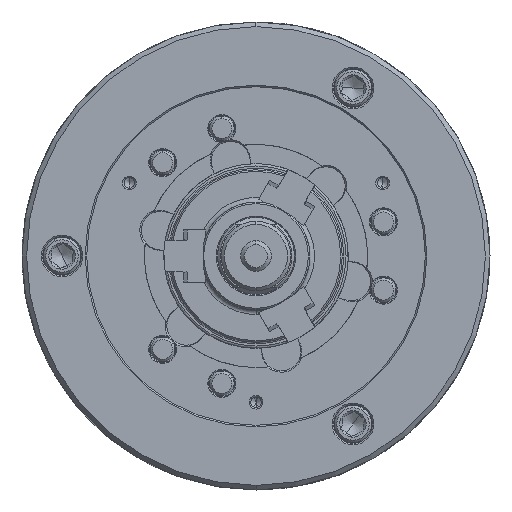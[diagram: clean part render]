
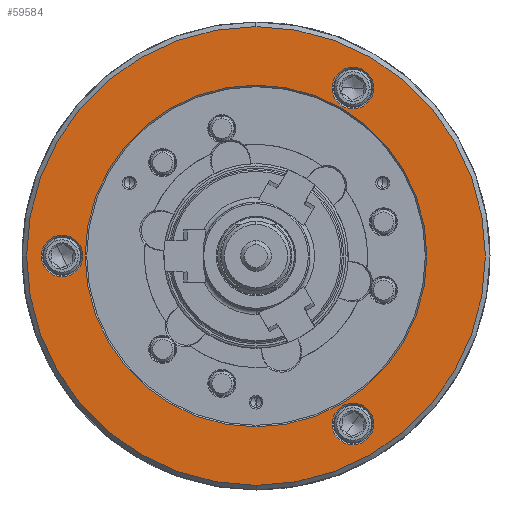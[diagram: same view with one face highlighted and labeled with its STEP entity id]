
A CAD part, left-side view. The second image highlights one B-rep face of the part: STEP entity #59584.
In plain terms, the highlighted planar face has unit normal (-1, 0, 0).
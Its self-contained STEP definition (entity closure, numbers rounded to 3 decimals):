
#859 = CARTESIAN_POINT ( 'NONE',  ( -106., -63., -95.619 ) ) ;
#1096 = FACE_BOUND ( 'NONE', #66993, .T. ) ;
#2465 = ORIENTED_EDGE ( 'NONE', *, *, #106544, .T. ) ;
#2637 = ORIENTED_EDGE ( 'NONE', *, *, #19438, .T. ) ;
#3357 = CARTESIAN_POINT ( 'NONE',  ( -106., 0., -111. ) ) ;
#3598 = VERTEX_POINT ( 'NONE', #81062 ) ;
#4525 = DIRECTION ( 'NONE',  ( 1., 0., 0. ) ) ;
#6349 = CIRCLE ( 'NONE', #74624, 13.5 ) ;
#6416 = ORIENTED_EDGE ( 'NONE', *, *, #31353, .F. ) ;
#6682 = CIRCLE ( 'NONE', #74953, 149. ) ;
#9047 = EDGE_LOOP ( 'NONE', ( #2637, #26412 ) ) ;
#9252 = CARTESIAN_POINT ( 'NONE',  ( -106., -63., 109.119 ) ) ;
#9295 = DIRECTION ( 'NONE',  ( 0., 0., -1. ) ) ;
#9530 = EDGE_CURVE ( 'NONE', #18376, #117053, #6682, .T. ) ;
#9852 = DIRECTION ( 'NONE',  ( 0., 0., -1. ) ) ;
#10398 = CIRCLE ( 'NONE', #59365, 111. ) ;
#12646 = FACE_BOUND ( 'NONE', #15241, .T. ) ;
#12737 = ORIENTED_EDGE ( 'NONE', *, *, #70303, .T. ) ;
#15241 = EDGE_LOOP ( 'NONE', ( #2465, #46863 ) ) ;
#16040 = CARTESIAN_POINT ( 'NONE',  ( -106., -63., -109.119 ) ) ;
#16658 = ORIENTED_EDGE ( 'NONE', *, *, #88995, .T. ) ;
#18376 = VERTEX_POINT ( 'NONE', #38354 ) ;
#18868 = CARTESIAN_POINT ( 'NONE',  ( -106., 0., 0. ) ) ;
#19017 = DIRECTION ( 'NONE',  ( 1., 0., 0. ) ) ;
#19438 = EDGE_CURVE ( 'NONE', #112745, #38171, #10398, .T. ) ;
#21090 = EDGE_CURVE ( 'NONE', #110123, #115815, #40815, .T. ) ;
#22855 = CARTESIAN_POINT ( 'NONE',  ( -106., 0., 0. ) ) ;
#26412 = ORIENTED_EDGE ( 'NONE', *, *, #72368, .T. ) ;
#29133 = VERTEX_POINT ( 'NONE', #105583 ) ;
#31353 = EDGE_CURVE ( 'NONE', #117053, #18376, #50854, .T. ) ;
#32812 = CIRCLE ( 'NONE', #62087, 13.5 ) ;
#33005 = DIRECTION ( 'NONE',  ( 1., 0., 0. ) ) ;
#33151 = CARTESIAN_POINT ( 'NONE',  ( -106., 0., 149. ) ) ;
#35339 = DIRECTION ( 'NONE',  ( 1., 0., 0. ) ) ;
#36159 = DIRECTION ( 'NONE',  ( 0., 0., -1. ) ) ;
#37526 = CIRCLE ( 'NONE', #90203, 13.5 ) ;
#38171 = VERTEX_POINT ( 'NONE', #3357 ) ;
#38354 = CARTESIAN_POINT ( 'NONE',  ( -106., 0., -149. ) ) ;
#39002 = VERTEX_POINT ( 'NONE', #89025 ) ;
#40545 = DIRECTION ( 'NONE',  ( 0., 0., -1. ) ) ;
#40815 = CIRCLE ( 'NONE', #109169, 13.5 ) ;
#43527 = DIRECTION ( 'NONE',  ( 1., 0., 0. ) ) ;
#44399 = ORIENTED_EDGE ( 'NONE', *, *, #21090, .T. ) ;
#46531 = CARTESIAN_POINT ( 'NONE',  ( -106., 0., 0. ) ) ;
#46833 = EDGE_LOOP ( 'NONE', ( #16658, #12737 ) ) ;
#46863 = ORIENTED_EDGE ( 'NONE', *, *, #55415, .T. ) ;
#48922 = AXIS2_PLACEMENT_3D ( 'NONE', #22855, #4525, #40545 ) ;
#49276 = FACE_BOUND ( 'NONE', #46833, .T. ) ;
#50854 = CIRCLE ( 'NONE', #48922, 149. ) ;
#55415 = EDGE_CURVE ( 'NONE', #29133, #3598, #6349, .T. ) ;
#56815 = AXIS2_PLACEMENT_3D ( 'NONE', #9252, #19017, #9852 ) ;
#58700 = AXIS2_PLACEMENT_3D ( 'NONE', #68028, #114555, #58900 ) ;
#58900 = DIRECTION ( 'NONE',  ( 0., 0., -1. ) ) ;
#59218 = CIRCLE ( 'NONE', #106102, 111. ) ;
#59365 = AXIS2_PLACEMENT_3D ( 'NONE', #18868, #74420, #120294 ) ;
#59584 = ADVANCED_FACE ( 'NONE', ( #12646, #1096, #49276, #67576, #86552 ), #66975, .F. ) ;
#61223 = DIRECTION ( 'NONE',  ( 1., 0., 0. ) ) ;
#62087 = AXIS2_PLACEMENT_3D ( 'NONE', #100958, #43527, #36159 ) ;
#66369 = DIRECTION ( 'NONE',  ( 1., 0., 0. ) ) ;
#66975 = PLANE ( 'NONE',  #96503 ) ;
#66993 = EDGE_LOOP ( 'NONE', ( #111729, #44399 ) ) ;
#67576 = FACE_OUTER_BOUND ( 'NONE', #80747, .T. ) ;
#68028 = CARTESIAN_POINT ( 'NONE',  ( -106., 126., 0. ) ) ;
#68392 = CARTESIAN_POINT ( 'NONE',  ( -106., 126., 0. ) ) ;
#70303 = EDGE_CURVE ( 'NONE', #39002, #96164, #37526, .T. ) ;
#72007 = CARTESIAN_POINT ( 'NONE',  ( -106., -63., 109.119 ) ) ;
#72337 = CIRCLE ( 'NONE', #56815, 13.5 ) ;
#72368 = EDGE_CURVE ( 'NONE', #38171, #112745, #59218, .T. ) ;
#74420 = DIRECTION ( 'NONE',  ( 1., 0., 0. ) ) ;
#74624 = AXIS2_PLACEMENT_3D ( 'NONE', #72007, #35339, #109324 ) ;
#74634 = DIRECTION ( 'NONE',  ( 1., 0., 0. ) ) ;
#74953 = AXIS2_PLACEMENT_3D ( 'NONE', #46531, #74634, #9295 ) ;
#76790 = DIRECTION ( 'NONE',  ( 0., 0., -1. ) ) ;
#80044 = DIRECTION ( 'NONE',  ( 0., 0., -1. ) ) ;
#80747 = EDGE_LOOP ( 'NONE', ( #86538, #6416 ) ) ;
#81062 = CARTESIAN_POINT ( 'NONE',  ( -106., -63., 122.619 ) ) ;
#86538 = ORIENTED_EDGE ( 'NONE', *, *, #9530, .F. ) ;
#86552 = FACE_BOUND ( 'NONE', #9047, .T. ) ;
#88995 = EDGE_CURVE ( 'NONE', #96164, #39002, #113433, .T. ) ;
#89025 = CARTESIAN_POINT ( 'NONE',  ( -106., 126., -13.5 ) ) ;
#90203 = AXIS2_PLACEMENT_3D ( 'NONE', #68392, #33005, #80044 ) ;
#93491 = DIRECTION ( 'NONE',  ( 1., 0., 0. ) ) ;
#95128 = CARTESIAN_POINT ( 'NONE',  ( -106., -111., 0. ) ) ;
#96164 = VERTEX_POINT ( 'NONE', #98158 ) ;
#96503 = AXIS2_PLACEMENT_3D ( 'NONE', #95128, #66369, #76790 ) ;
#98158 = CARTESIAN_POINT ( 'NONE',  ( -106., 126., 13.5 ) ) ;
#100958 = CARTESIAN_POINT ( 'NONE',  ( -106., -63., -109.119 ) ) ;
#105583 = CARTESIAN_POINT ( 'NONE',  ( -106., -63., 95.619 ) ) ;
#106057 = CARTESIAN_POINT ( 'NONE',  ( -106., -63., -122.619 ) ) ;
#106099 = CARTESIAN_POINT ( 'NONE',  ( -106., 0., 111. ) ) ;
#106102 = AXIS2_PLACEMENT_3D ( 'NONE', #112457, #93491, #110651 ) ;
#106544 = EDGE_CURVE ( 'NONE', #3598, #29133, #72337, .T. ) ;
#109169 = AXIS2_PLACEMENT_3D ( 'NONE', #16040, #61223, #116263 ) ;
#109324 = DIRECTION ( 'NONE',  ( 0., 0., -1. ) ) ;
#110123 = VERTEX_POINT ( 'NONE', #106057 ) ;
#110651 = DIRECTION ( 'NONE',  ( 0., 0., -1. ) ) ;
#111729 = ORIENTED_EDGE ( 'NONE', *, *, #117223, .T. ) ;
#112457 = CARTESIAN_POINT ( 'NONE',  ( -106., 0., 0. ) ) ;
#112745 = VERTEX_POINT ( 'NONE', #106099 ) ;
#113433 = CIRCLE ( 'NONE', #58700, 13.5 ) ;
#114555 = DIRECTION ( 'NONE',  ( 1., 0., 0. ) ) ;
#115815 = VERTEX_POINT ( 'NONE', #859 ) ;
#116263 = DIRECTION ( 'NONE',  ( 0., 0., -1. ) ) ;
#117053 = VERTEX_POINT ( 'NONE', #33151 ) ;
#117223 = EDGE_CURVE ( 'NONE', #115815, #110123, #32812, .T. ) ;
#120294 = DIRECTION ( 'NONE',  ( 0., 0., -1. ) ) ;
